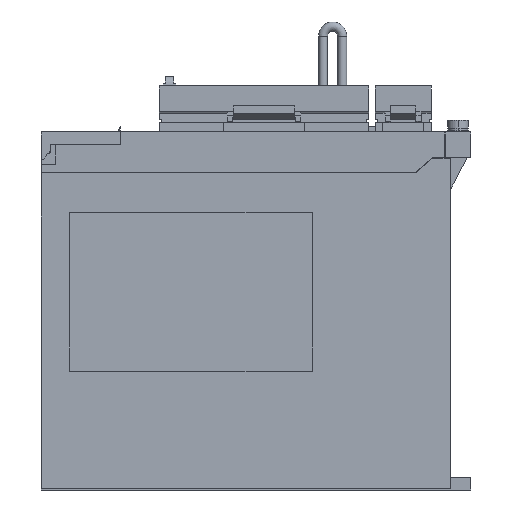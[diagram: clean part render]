
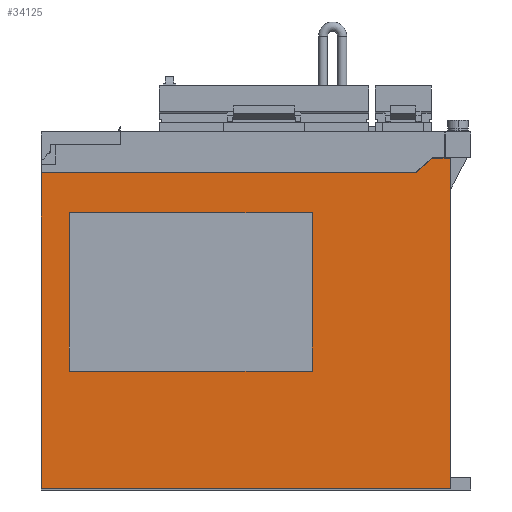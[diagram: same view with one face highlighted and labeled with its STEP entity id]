
A CAD part, left-side view. The second image highlights one B-rep face of the part: STEP entity #34125.
In plain terms, the highlighted planar face has unit normal (-1, 0, 0).
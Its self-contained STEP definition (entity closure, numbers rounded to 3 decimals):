
#4360 = CARTESIAN_POINT ( 'NONE',  ( -35., -155., 0.5 ) ) ;
#4361 = DIRECTION ( 'NONE',  ( 0., 0., -1. ) ) ;
#4362 = VECTOR ( 'NONE', #4361, 1000. ) ;
#4363 = CARTESIAN_POINT ( 'NONE',  ( -35., -155., 288.924 ) ) ;
#4364 = LINE ( 'NONE', #4363, #4362 ) ;
#4365 = CARTESIAN_POINT ( 'NONE',  ( -35., -155., 129.8 ) ) ;
#5088 = CARTESIAN_POINT ( 'NONE',  ( -35., 5., 124. ) ) ;
#5150 = DIRECTION ( 'NONE',  ( 0., 0., -1. ) ) ;
#5151 = VECTOR ( 'NONE', #5150, 1000. ) ;
#5152 = CARTESIAN_POINT ( 'NONE',  ( -35., 5., 288.924 ) ) ;
#5153 = LINE ( 'NONE', #5152, #5151 ) ;
#5154 = CARTESIAN_POINT ( 'NONE',  ( -35., 5., 0.5 ) ) ;
#9439 = CARTESIAN_POINT ( 'NONE',  ( -35., -6., 46.5 ) ) ;
#9446 = DIRECTION ( 'NONE',  ( 0., -1., 0. ) ) ;
#9447 = VECTOR ( 'NONE', #9446, 1000. ) ;
#9448 = CARTESIAN_POINT ( 'NONE',  ( -35., -6., 46.5 ) ) ;
#9449 = LINE ( 'NONE', #9448, #9447 ) ;
#9495 = DIRECTION ( 'NONE',  ( 0., 0., 1. ) ) ;
#9496 = VECTOR ( 'NONE', #9495, 1000. ) ;
#9497 = CARTESIAN_POINT ( 'NONE',  ( -35., -101., 46.5 ) ) ;
#9498 = LINE ( 'NONE', #9497, #9496 ) ;
#9499 = CARTESIAN_POINT ( 'NONE',  ( -35., -101., 108.5 ) ) ;
#9500 = DIRECTION ( 'NONE',  ( 0., 1., 0. ) ) ;
#9501 = VECTOR ( 'NONE', #9500, 1000. ) ;
#9502 = CARTESIAN_POINT ( 'NONE',  ( -35., -6., 108.5 ) ) ;
#9503 = LINE ( 'NONE', #9502, #9501 ) ;
#9508 = CARTESIAN_POINT ( 'NONE',  ( -35., -6., 108.5 ) ) ;
#9543 = CARTESIAN_POINT ( 'NONE',  ( -35., -148., 129.8 ) ) ;
#9544 = DIRECTION ( 'NONE',  ( 0., -1., 0. ) ) ;
#9545 = VECTOR ( 'NONE', #9544, 1000. ) ;
#9546 = CARTESIAN_POINT ( 'NONE',  ( -35., -153., 129.8 ) ) ;
#9547 = LINE ( 'NONE', #9546, #9545 ) ;
#9560 = CARTESIAN_POINT ( 'NONE',  ( -35., -141.328, 124. ) ) ;
#9561 = DIRECTION ( 'NONE',  ( 0., -0.755, 0.656 ) ) ;
#9562 = VECTOR ( 'NONE', #9561, 1000. ) ;
#9563 = CARTESIAN_POINT ( 'NONE',  ( -35., -141.328, 124. ) ) ;
#9564 = LINE ( 'NONE', #9563, #9562 ) ;
#9574 = DIRECTION ( 'NONE',  ( 0., 0., -1. ) ) ;
#9575 = DIRECTION ( 'NONE',  ( 1., 0., 0. ) ) ;
#9576 = CARTESIAN_POINT ( 'NONE',  ( -35., 5., 288.924 ) ) ;
#9577 = AXIS2_PLACEMENT_3D ( 'NONE', #9576, #9575, #9574 ) ;
#9578 = PLANE ( 'NONE',  #9577 ) ;
#9579 = FACE_OUTER_BOUND ( 'NONE', #34096, .T. ) ;
#9580 = FACE_BOUND ( 'NONE', #34041, .T. ) ;
#9611 = DIRECTION ( 'NONE',  ( 0., -1., 0. ) ) ;
#9612 = VECTOR ( 'NONE', #9611, 1000. ) ;
#9613 = CARTESIAN_POINT ( 'NONE',  ( -35., 5., 0.5 ) ) ;
#9614 = LINE ( 'NONE', #9613, #9612 ) ;
#9615 = DIRECTION ( 'NONE',  ( 0., -1., 0. ) ) ;
#9616 = VECTOR ( 'NONE', #9615, 1000. ) ;
#9617 = CARTESIAN_POINT ( 'NONE',  ( -35., 13.365, 124. ) ) ;
#9618 = LINE ( 'NONE', #9617, #9616 ) ;
#9645 = DIRECTION ( 'NONE',  ( 0., 0., -1. ) ) ;
#9646 = VECTOR ( 'NONE', #9645, 1000. ) ;
#9647 = CARTESIAN_POINT ( 'NONE',  ( -35., -6., 46.5 ) ) ;
#9648 = LINE ( 'NONE', #9647, #9646 ) ;
#9649 = CARTESIAN_POINT ( 'NONE',  ( -35., -101., 46.5 ) ) ;
#31022 = VERTEX_POINT ( 'NONE', #4365 ) ;
#31024 = EDGE_CURVE ( 'NONE', #31022, #31025, #4364, .T. ) ;
#31025 = VERTEX_POINT ( 'NONE', #4360 ) ;
#31415 = VERTEX_POINT ( 'NONE', #5088 ) ;
#31456 = VERTEX_POINT ( 'NONE', #5154 ) ;
#31458 = EDGE_CURVE ( 'NONE', #31415, #31456, #5153, .T. ) ;
#34041 = EDGE_LOOP ( 'NONE', ( #34043, #34165, #34088, #34093 ) ) ;
#34043 = ORIENTED_EDGE ( 'NONE', *, *, #34045, .F. ) ;
#34045 = EDGE_CURVE ( 'NONE', #34047, #34163, #9449, .T. ) ;
#34047 = VERTEX_POINT ( 'NONE', #9439 ) ;
#34086 = VERTEX_POINT ( 'NONE', #9508 ) ;
#34088 = ORIENTED_EDGE ( 'NONE', *, *, #34090, .F. ) ;
#34090 = EDGE_CURVE ( 'NONE', #34091, #34086, #9503, .T. ) ;
#34091 = VERTEX_POINT ( 'NONE', #9499 ) ;
#34093 = ORIENTED_EDGE ( 'NONE', *, *, #34094, .F. ) ;
#34094 = EDGE_CURVE ( 'NONE', #34163, #34091, #9498, .T. ) ;
#34096 = EDGE_LOOP ( 'NONE', ( #34099, #34101, #34136, #34141, #34145, #34147 ) ) ;
#34099 = ORIENTED_EDGE ( 'NONE', *, *, #31024, .F. ) ;
#34101 = ORIENTED_EDGE ( 'NONE', *, *, #34103, .F. ) ;
#34103 = EDGE_CURVE ( 'NONE', #34104, #31022, #9547, .T. ) ;
#34104 = VERTEX_POINT ( 'NONE', #9543 ) ;
#34125 = ADVANCED_FACE ( 'NONE', ( #9580, #9579 ), #9578, .F. ) ;
#34136 = ORIENTED_EDGE ( 'NONE', *, *, #34137, .F. ) ;
#34137 = EDGE_CURVE ( 'NONE', #34139, #34104, #9564, .T. ) ;
#34139 = VERTEX_POINT ( 'NONE', #9560 ) ;
#34141 = ORIENTED_EDGE ( 'NONE', *, *, #34143, .F. ) ;
#34143 = EDGE_CURVE ( 'NONE', #31415, #34139, #9618, .T. ) ;
#34145 = ORIENTED_EDGE ( 'NONE', *, *, #31458, .T. ) ;
#34147 = ORIENTED_EDGE ( 'NONE', *, *, #34149, .T. ) ;
#34149 = EDGE_CURVE ( 'NONE', #31456, #31025, #9614, .T. ) ;
#34163 = VERTEX_POINT ( 'NONE', #9649 ) ;
#34165 = ORIENTED_EDGE ( 'NONE', *, *, #34167, .F. ) ;
#34167 = EDGE_CURVE ( 'NONE', #34086, #34047, #9648, .T. ) ;
